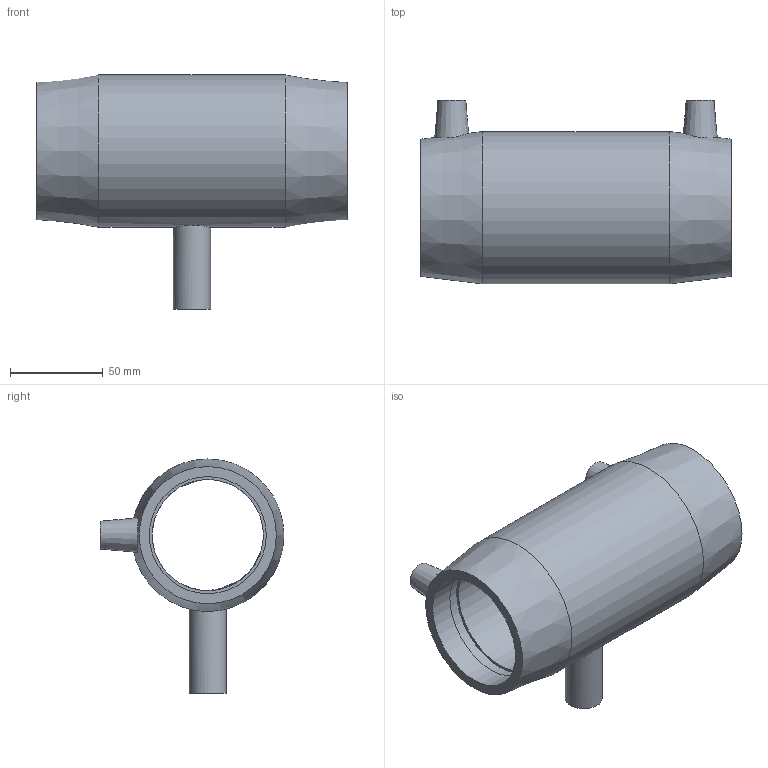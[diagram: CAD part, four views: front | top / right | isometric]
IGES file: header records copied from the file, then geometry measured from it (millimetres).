
Global section: file name: 491404063020.ipt; native system: Autodesk Inventor 2015; preprocessor: unknown; author: KIM; date: 20171106.093844; units: millimetre
Bounding box: 167 x 99 x 126 mm (x, y, z)
Volume: 355758.5 mm3; surface area: 86488.5 mm2
Topology: 1 solids, 1 shells, 31 faces, 72 edges, 52 vertices
Faces by surface type: plane 13, revolution 10, cylinder 4, cone 4
Full cylindrical faces by diameter (mm): 4 x2, 20 x1, 82 x1
